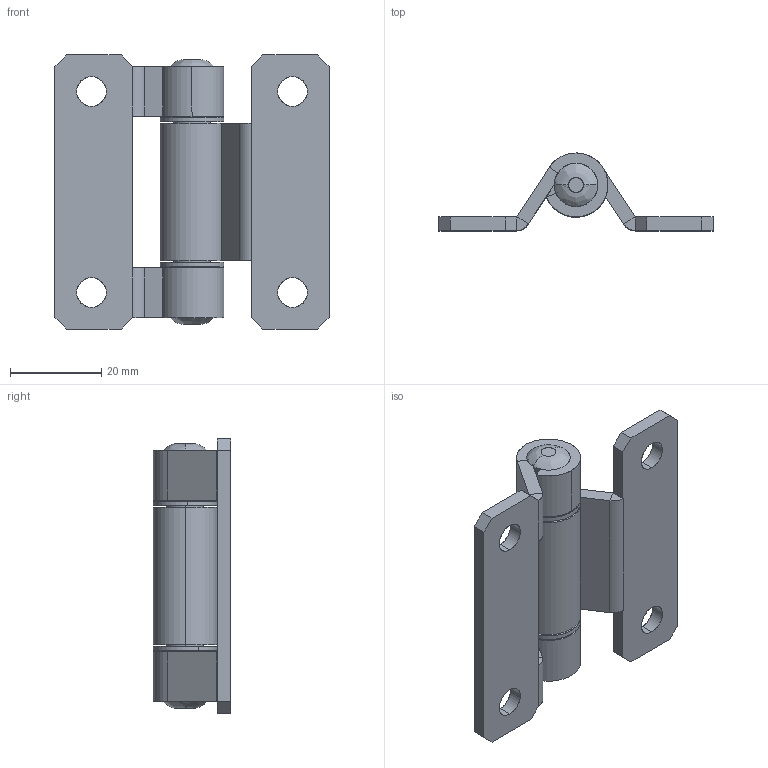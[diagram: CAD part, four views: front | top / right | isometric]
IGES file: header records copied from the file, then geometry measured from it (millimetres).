
Start section: SolidWorks IGES file using analytic representation for surfaces
Global section: file name: C:\Users\cbrechard\Desktop\30876E.IGS; native system: SolidWorks 2017; preprocessor: SolidWorks 2017; author: cbrechard; date: 191008.174741; units: millimetre
Bounding box: 60 x 17 x 60 mm (x, y, z)
Surface area: 12337 mm2 (no closed solid volume)
Topology: 0 solids, 0 shells, 98 faces, 1500 edges, 1500 vertices
Faces by surface type: bspline 60, revolution 38
